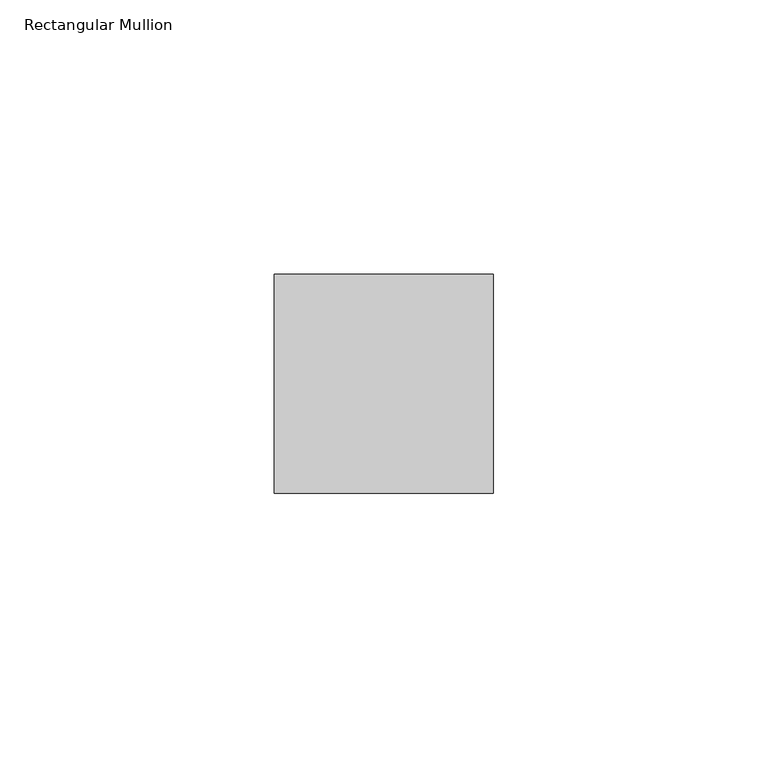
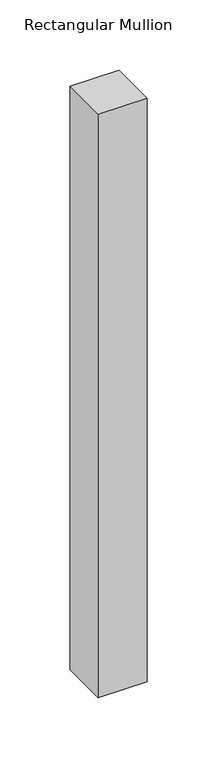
"""IFC4 building model written with IfcOpenShell, lengths in millimetres: member geometry, Rectangular Mullion : Danpal_NM_MiddleH-Mullion."""

import ifcopenshell
import ifcopenshell.guid

model = None  # the IFC model being written
_history = None  # IfcOwnerHistory: only IFC2X3 demands one
_inside = {}  # id of a spatial element -> (the spatial element, [elements in it])
_under = {}  # id of a project, library or spatial element -> (it, [spatial elements below it])
_declared = {}  # id of a project -> (the project, [libraries it declares])
_typed = {}  # id of a type object -> (the type object, [elements of that type])
_made_of = {}  # id of a material, layer set ... -> (it, [elements and type objects made of it])


def new_model(schema):
    """Start an empty IFC model of exactly this schema.

    Asked for "IFC4X3", IfcOpenShell would pick the latest addendum, in which some entities
    have other attributes; the version numbers below select the first issue.
    IFC2X3 requires an IfcOwnerHistory on every rooted entity: one is made here for all.
    """
    global model, _history
    if schema == "IFC4X3":
        model = ifcopenshell.file(schema_version=(4, 3, 0, 0))
    else:
        model = ifcopenshell.file(schema=schema)
    _inside.clear()
    _under.clear()
    _declared.clear()
    _typed.clear()
    _made_of.clear()
    _history = None
    if model.schema == "IFC2X3":
        org = make("IfcOrganization", Name="unknown")
        user = make(
            "IfcPersonAndOrganization",
            ThePerson=make("IfcPerson", FamilyName="unknown"),
            TheOrganization=org,
        )
        app = make(
            "IfcApplication",
            ApplicationDeveloper=org,
            Version="unknown",
            ApplicationFullName="unknown",
            ApplicationIdentifier="unknown",
        )
        _history = make(
            "IfcOwnerHistory",
            OwningUser=user,
            OwningApplication=app,
            ChangeAction="ADDED",
            CreationDate=0,
        )
    return model


def make(cls, **values):
    """One entity of the class cls with the attributes given. An attribute that is None is left unset."""
    return model.create_entity(
        cls, **{name: value for name, value in values.items() if value is not None}
    )


def rooted(cls, **values):
    """An entity with a GlobalId (a new one), such as an element, a storey or a relation."""
    return make(cls, GlobalId=ifcopenshell.guid.new(), OwnerHistory=_history, **values)


def si_unit(unit_type, name, prefix=None):
    """IfcSIUnit, for example si_unit("LENGTHUNIT", "METRE", prefix="MILLI")."""
    return make("IfcSIUnit", UnitType=unit_type, Prefix=prefix, Name=name)


def assignment(units):
    """IfcUnitAssignment: the units of a project."""
    return None if units is None else make("IfcUnitAssignment", Units=units)


def point(xyz):
    """IfcCartesianPoint."""
    return None if xyz is None else make("IfcCartesianPoint", Coordinates=xyz)


def direction(xyz):
    """IfcDirection."""
    return None if xyz is None else make("IfcDirection", DirectionRatios=xyz)


def frame(location, z_axis=None, x_axis=None):
    """IfcAxis2Placement3D, a coordinate frame: its origin and axes. An axis left out is left unset."""
    return make(
        "IfcAxis2Placement3D",
        Location=point(location),
        Axis=direction(z_axis),
        RefDirection=direction(x_axis),
    )


def origin():
    """The frame at (0, 0, 0) with its axes left unset."""
    return frame((0.0, 0.0, 0.0))


def place(relative_to, where):
    """IfcLocalPlacement: puts the frame where relative to a parent placement (None: the world)."""
    return make(
        "IfcLocalPlacement", PlacementRelTo=relative_to, RelativePlacement=where
    )


def context(
    kind, dimensions, precision=None, world=None, true_north=None, identifier=None
):
    """IfcGeometricRepresentationContext, for example the 3D "Model" context."""
    return make(
        "IfcGeometricRepresentationContext",
        ContextIdentifier=identifier,
        ContextType=kind,
        CoordinateSpaceDimension=dimensions,
        Precision=precision,
        WorldCoordinateSystem=world,
        TrueNorth=true_north,
    )


def project(units=None, contexts=None):
    """IfcProject with its units and contexts."""
    return rooted(
        "IfcProject",
        Name="project",
        RepresentationContexts=contexts,
        UnitsInContext=assignment(units),
    )


def spatial(cls, under=None, at=None, **own):
    """A site, building, storey or space (cls), placed at a placement, below another one or the project."""
    s = rooted(cls, ObjectPlacement=at, **own)
    if under is not None:
        _under.setdefault(under.id(), (under, []))[1].append(s)
    return s


def polyline(points):
    """IfcPolyline through the points."""
    return make("IfcPolyline", Points=[point(p) for p in points])


def outline(outer, holes=None, kind="AREA"):
    """IfcArbitraryClosedProfileDef: a profile drawn as a closed curve; with holes, ...WithVoids."""
    if holes is None:
        return make("IfcArbitraryClosedProfileDef", ProfileType=kind, OuterCurve=outer)
    return make(
        "IfcArbitraryProfileDefWithVoids",
        ProfileType=kind,
        OuterCurve=outer,
        InnerCurves=holes,
    )


def extrude(swept, where, along, depth):
    """IfcExtrudedAreaSolid: the profile swept, set in the frame where, extruded along a direction by depth."""
    return make(
        "IfcExtrudedAreaSolid",
        SweptArea=swept,
        Position=where,
        ExtrudedDirection=direction(along),
        Depth=depth,
    )


def shape(context_of_items, identifier, shape_type, items):
    """IfcShapeRepresentation: the items that make up one representation, for example the "Body"."""
    return make(
        "IfcShapeRepresentation",
        ContextOfItems=context_of_items,
        RepresentationIdentifier=identifier,
        RepresentationType=shape_type,
        Items=items,
    )


def source(mapping_origin, context_of_items, identifier, shape_type, items):
    """IfcRepresentationMap: a shape defined once, which mapped items show again and again."""
    return make(
        "IfcRepresentationMap",
        MappingOrigin=mapping_origin,
        MappedRepresentation=shape(context_of_items, identifier, shape_type, items),
    )


def transform(
    local_origin,
    x_axis=None,
    y_axis=None,
    z_axis=None,
    scale=None,
    scale2=None,
    scale3=None,
    uniform=True,
):
    """IfcCartesianTransformationOperator3D, or its non-uniform kind. x_axis, y_axis, z_axis: its Axis1, 2, 3."""
    if uniform:
        return make(
            "IfcCartesianTransformationOperator3D",
            Axis1=direction(x_axis),
            Axis2=direction(y_axis),
            LocalOrigin=point(local_origin),
            Scale=scale,
            Axis3=direction(z_axis),
        )
    return make(
        "IfcCartesianTransformationOperator3DnonUniform",
        Axis1=direction(x_axis),
        Axis2=direction(y_axis),
        LocalOrigin=point(local_origin),
        Scale=scale,
        Axis3=direction(z_axis),
        Scale2=scale2,
        Scale3=scale3,
    )


def mapped(mapping_source, mapping_target):
    """IfcMappedItem: shows the shape of a source again, moved by a transform."""
    return make(
        "IfcMappedItem", MappingSource=mapping_source, MappingTarget=mapping_target
    )


def made_of(thing, what):
    """Note that an element or type object is made of a material, layer set ...; save() writes the relation."""
    if what is not None:
        _made_of.setdefault(what.id(), (what, []))[1].append(thing)
    return thing


def element(
    cls,
    number,
    at=None,
    inside=None,
    cuts=None,
    type_object=None,
    material=None,
    context=None,
    identifier="Body",
    shape_type=None,
    held_by="IfcProductDefinitionShape",
    body=None,
    shapes=None,
    **own,
):
    """One element of the class cls, such as IfcWall. Its Tag is "e" and its number.

    at: its placement. inside: the storey or other place that contains it. cuts: it is an
    opening in that element (IfcRelVoidsElement). A single representation is given by context,
    identifier, shape_type and body (its items); several are given by shapes. held_by: the class
    of the entity that holds the representations. save() writes the other relations.
    """
    e = rooted(cls, Tag="e%d" % number, ObjectPlacement=at, **own)
    if body is not None:
        shapes = [shape(context, identifier, shape_type, body)]
    if shapes is not None:
        e.Representation = make(held_by, Representations=shapes)
    if inside is not None:
        _inside.setdefault(inside.id(), (inside, []))[1].append(e)
    if cuts is not None:
        rooted(
            "IfcRelVoidsElement", RelatingBuildingElement=cuts, RelatedOpeningElement=e
        )
    if type_object is not None:
        _typed.setdefault(type_object.id(), (type_object, []))[1].append(e)
    return made_of(e, material)


def aggregate(whole, parts):
    """IfcRelAggregates: a whole, such as a stair, and the parts it consists of."""
    return rooted("IfcRelAggregates", RelatingObject=whole, RelatedObjects=parts)


def save(model, path):
    """Write the relations noted so far, then the file.

    IfcRelAggregates (storeys below a building ...), IfcRelContainedInSpatialStructure (elements
    in a storey), IfcRelDefinesByType, IfcRelAssociatesMaterial and IfcRelDeclares: one each for
    every whole, place, type object, material and project.
    """
    for whole, parts in _under.values():
        aggregate(whole, parts)
    for where, things in _inside.values():
        rooted(
            "IfcRelContainedInSpatialStructure",
            RelatedElements=things,
            RelatingStructure=where,
        )
    for kind, things in _typed.values():
        rooted("IfcRelDefinesByType", RelatedObjects=things, RelatingType=kind)
    for what, things in _made_of.values():
        rooted("IfcRelAssociatesMaterial", RelatedObjects=things, RelatingMaterial=what)
    for by, libraries in _declared.values():
        rooted("IfcRelDeclares", RelatingContext=by, RelatedDefinitions=libraries)
    model.write(path)


def rectangular_mullion_794c11a0(model_context):
    return source(origin(), model_context, "Body", "SweptSolid", [
        extrude(outline(polyline([(0.0, -108.6621721), (-40.0, -108.6621721), (-40.0, -68.6621721), (0.0, -68.6621721), (0.0, -108.6621721)])), frame((0.0, 0.0, -506.3852426), z_axis=(0.0, 0.0, 1.0), x_axis=(1.0, 0.0, 0.0)), (0.0, 0.0, 1.0), 506.3852426),
    ])


if __name__ == "__main__":
    model = new_model("IFC4")
    model_context = context("Model", 3, world=origin())
    ifc_project = project(units=[si_unit("LENGTHUNIT", "METRE", prefix="MILLI")], contexts=[model_context])
    site = spatial("IfcSite", under=ifc_project)
    building = spatial("IfcBuilding", under=site)
    placement = place(None, origin())
    rectangular_mullion_shape = rectangular_mullion_794c11a0(model_context)
    element("IfcMember", 1, ObjectType="Rectangular Mullion : Danpal_NM_MiddleH-Mullion", at=placement, inside=building, context=model_context, shape_type="MappedRepresentation", body=[
        mapped(rectangular_mullion_shape, transform((0.0, 0.0, 0.0), x_axis=(1.0, 0.0, 0.0), y_axis=(0.0, 1.0, 0.0), z_axis=(0.0, 0.0, 1.0))),
    ])
    save(model, "model.ifc")
